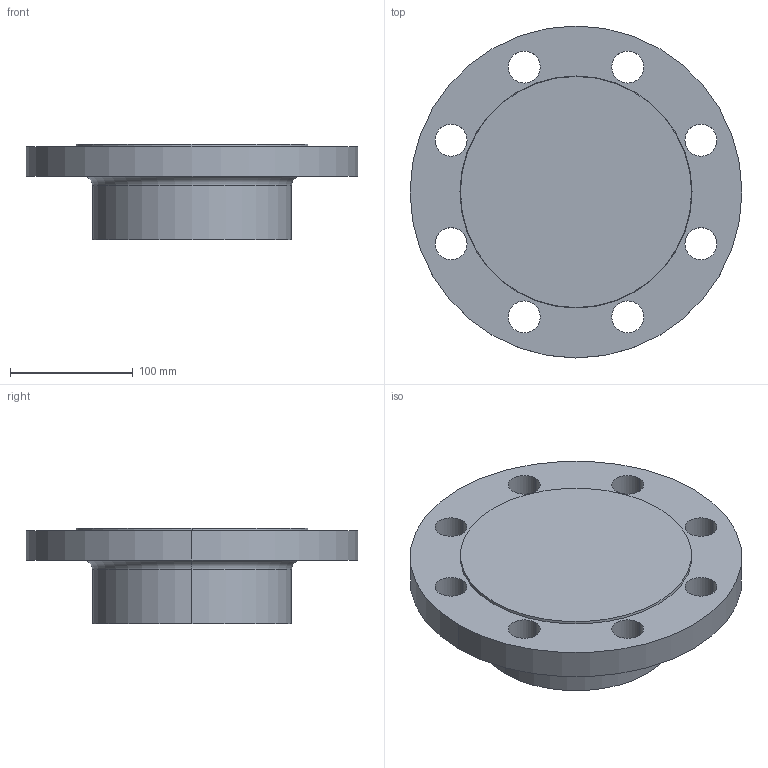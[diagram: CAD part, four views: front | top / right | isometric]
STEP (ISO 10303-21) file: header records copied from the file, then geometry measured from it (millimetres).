
FILE_DESCRIPTION (( 'STEP AP214' ), '1' );
FILE_NAME ('PN40 DN125 Type 21(i) - Type B Face.STEP', '2019-01-02T01:22:48', ( '' ), ( '' ), 'SwSTEP 2.0', 'SolidWorks 2019', '' );
FILE_SCHEMA (( 'AUTOMOTIVE_DESIGN' ));
Length unit declared in the file: millimetre
Products named in the file (1): PN40 DN125 Type 21(i) - Type B Face
Bounding box: 270 x 270 x 78 mm (x, y, z)
Volume: 2406888.7 mm3; surface area: 167795.3 mm2
Topology: 1 solids, 1 shells, 28 faces, 70 edges, 46 vertices
Faces by surface type: cylinder 20, plane 4, torus 2, cone 2
Entity records: 932 total; most frequent: DIRECTION 176, CARTESIAN_POINT 145, ORIENTED_EDGE 140, AXIS2_PLACEMENT_3D 77, EDGE_CURVE 70, CIRCLE 48, VERTEX_POINT 46, EDGE_LOOP 46
